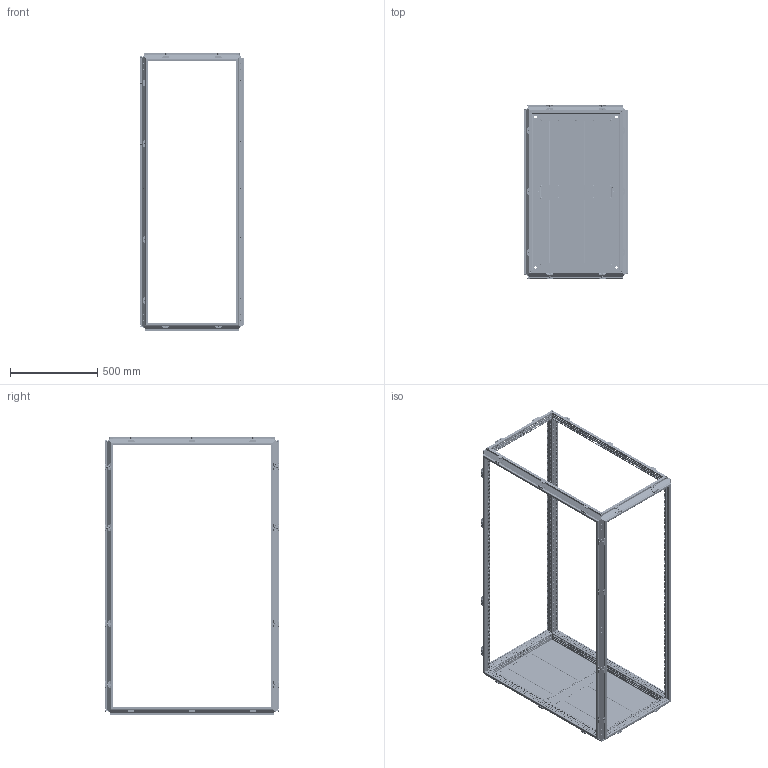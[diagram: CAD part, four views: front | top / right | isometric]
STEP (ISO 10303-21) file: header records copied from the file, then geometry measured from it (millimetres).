
FILE_DESCRIPTION(('STEP AP203'), '1');
FILE_NAME('3000 忺謤僔 捘', '', ('UNSPECIFIED'), ('UNSPECIFIED'), 'C3D Converter', 'C3D Toolkit', '');
FILE_SCHEMA(('CONFIG_CONTROL_DESIGN'));
Length unit declared in the file: millimetre
Products named in the file (14): 3000.160.100.60 СБ; 3000; 3007.175; 3007.75; 3007.200; 3006; 3009.04; 3009.04.01; 3009.04.2; 3009.04.01.2
Assembly tree (160 placements, depth 3):
  3000.160.100.60 СБ
    3000
    (unnamed)  x96
    3007.175  x2
    (unnamed)  x22
    3007.75  x2
    3007.200  x2
    3006
    3009.04  x10
      3009.04.01
      (unnamed)
      (unnamed)
    3009.04.2  x15
      3009.04.01.2
      (unnamed)
      (unnamed)
Bounding box: 597 x 997 x 1598.5 mm (x, y, z)
Volume: 4077288.6 mm3; surface area: 5392468.5 mm2
Topology: 257 solids, 257 shells, 17729 faces, 49307 edges, 32484 vertices
Faces by surface type: plane 12165, cylinder 4400, cone 748, torus 268, bspline 148
Full cylindrical faces by diameter (mm): 4.134 x136, 4.5 x1878, 4.8 x22, 5 x148, 5.8 x40, 6.8 x192, 7 x96, 7.5 x50, 8 x96, 9.2 x50, 10.106 x8, 14 x4
Entity records: 381950 total; most frequent: CARTESIAN_POINT 70587, ORIENTED_EDGE 61182, DIRECTION 58045, EDGE_CURVE 30591, LINE 25027, VECTOR 25027, VERTEX_POINT 21534, EDGE_LOOP 20841
